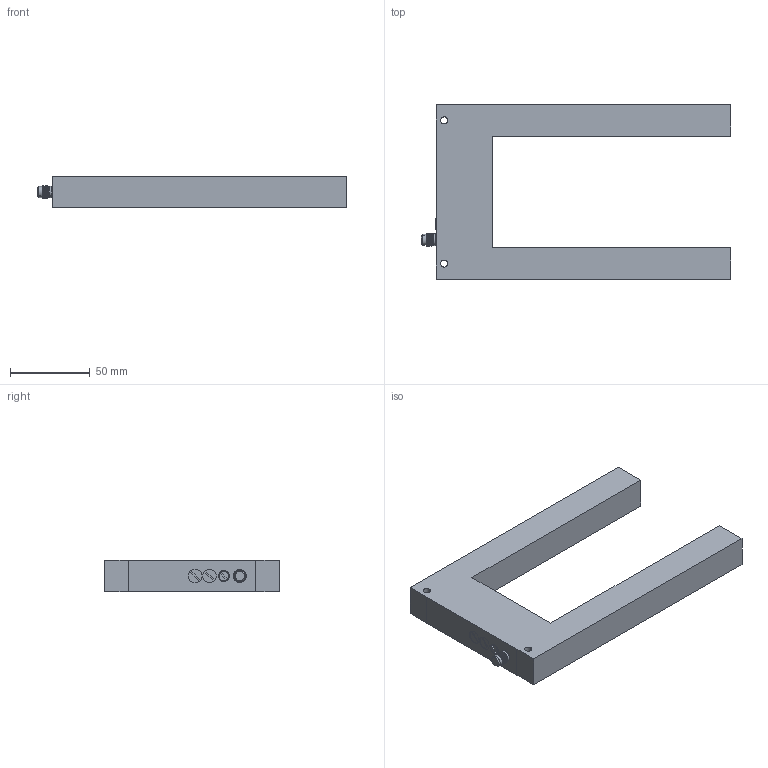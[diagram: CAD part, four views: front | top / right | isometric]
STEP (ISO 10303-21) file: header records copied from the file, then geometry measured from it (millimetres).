
FILE_DESCRIPTION(('STEP AP214'),'1');
FILE_NAME('F:/3D Modelle homepage/tmp0.step','2020-09-01T10:07:01',(' '),(' '),'Spatial InterOp 3D',' ',' ');
FILE_SCHEMA(('automotive_design'));
Length unit declared in the file: millimetre
Products named in the file (1): 1
Bounding box: 194.42 x 110 x 20 mm (x, y, z)
Volume: 196669.1 mm3; surface area: 38396.9 mm2
Topology: 1 solids, 1 shells, 86 faces, 208 edges, 135 vertices
Faces by surface type: plane 40, cylinder 36, cone 4, torus 4, bspline 2
Entity records: 5180 total; most frequent: CARTESIAN_POINT 2466, ORIENTED_EDGE 416, DIRECTION 400, EDGE_CURVE 208, AXIS2_PLACEMENT_3D 143, VERTEX_POINT 135, LINE 114, VECTOR 114
